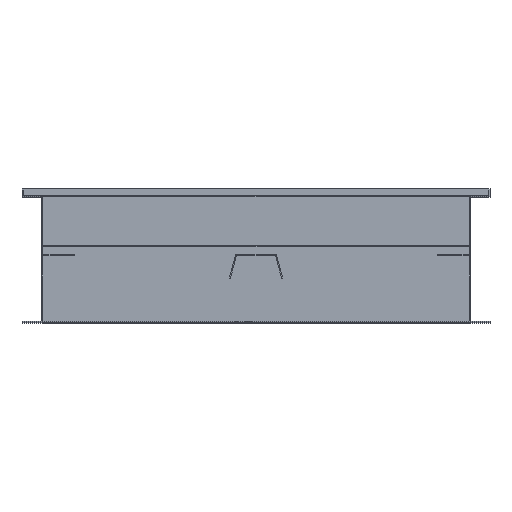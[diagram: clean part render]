
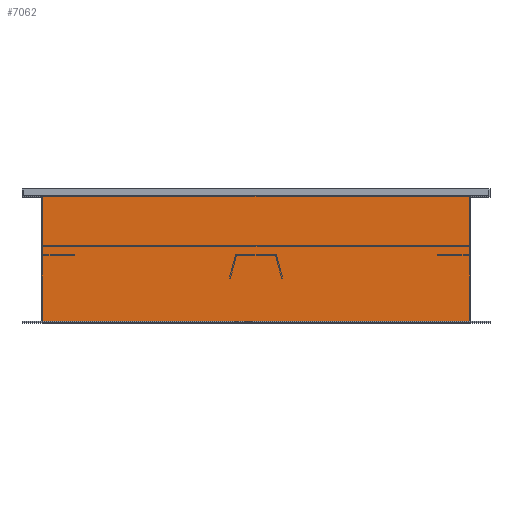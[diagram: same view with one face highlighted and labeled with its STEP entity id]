
A CAD part, top view. The second image highlights one B-rep face of the part: STEP entity #7062.
In plain terms, the highlighted planar face has unit normal (0, 0, 1).
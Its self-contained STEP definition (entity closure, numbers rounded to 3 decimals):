
#2555=DIRECTION('',(1.,0.,0.));
#2556=VECTOR('',#2555,804.);
#2557=CARTESIAN_POINT('',(-402.,-248.,402.));
#2558=LINE('',#2557,#2556);
#2563=DIRECTION('',(0.,-1.,0.));
#2564=VECTOR('',#2563,234.);
#2565=CARTESIAN_POINT('',(-402.,-14.,402.));
#2566=LINE('',#2565,#2564);
#2567=DIRECTION('',(1.,0.,0.));
#2568=VECTOR('',#2567,804.);
#2569=CARTESIAN_POINT('',(-402.,-14.,402.));
#2570=LINE('',#2569,#2568);
#2571=DIRECTION('',(0.,-1.,0.));
#2572=VECTOR('',#2571,234.);
#2573=CARTESIAN_POINT('',(402.,-14.,402.));
#2574=LINE('',#2573,#2572);
#2957=CARTESIAN_POINT('',(-402.,-14.,402.));
#2958=CARTESIAN_POINT('',(-402.,-248.,402.));
#2959=VERTEX_POINT('',#2957);
#2960=VERTEX_POINT('',#2958);
#2977=CARTESIAN_POINT('',(402.,-14.,402.));
#2978=CARTESIAN_POINT('',(402.,-248.,402.));
#2979=VERTEX_POINT('',#2977);
#2980=VERTEX_POINT('',#2978);
#7050=CARTESIAN_POINT('',(-400.,-14.,402.));
#7051=DIRECTION('',(0.,0.,1.));
#7052=DIRECTION('',(0.,-1.,0.));
#7053=AXIS2_PLACEMENT_3D('',#7050,#7051,#7052);
#7054=PLANE('',#7053);
#7055=ORIENTED_EDGE('',*,*,#3797,.F.);
#7056=ORIENTED_EDGE('',*,*,#3784,.T.);
#7058=ORIENTED_EDGE('',*,*,#7057,.T.);
#7059=ORIENTED_EDGE('',*,*,#7043,.F.);
#7060=EDGE_LOOP('',(#7055,#7056,#7058,#7059));
#7061=FACE_OUTER_BOUND('',#7060,.F.);
#3784=EDGE_CURVE('',#2959,#2979,#2570,.T.);
#3797=EDGE_CURVE('',#2959,#2960,#2566,.T.);
#7043=EDGE_CURVE('',#2960,#2980,#2558,.T.);
#7057=EDGE_CURVE('',#2979,#2980,#2574,.T.);
#7062=ADVANCED_FACE('',(#7061),#7054,.T.);
